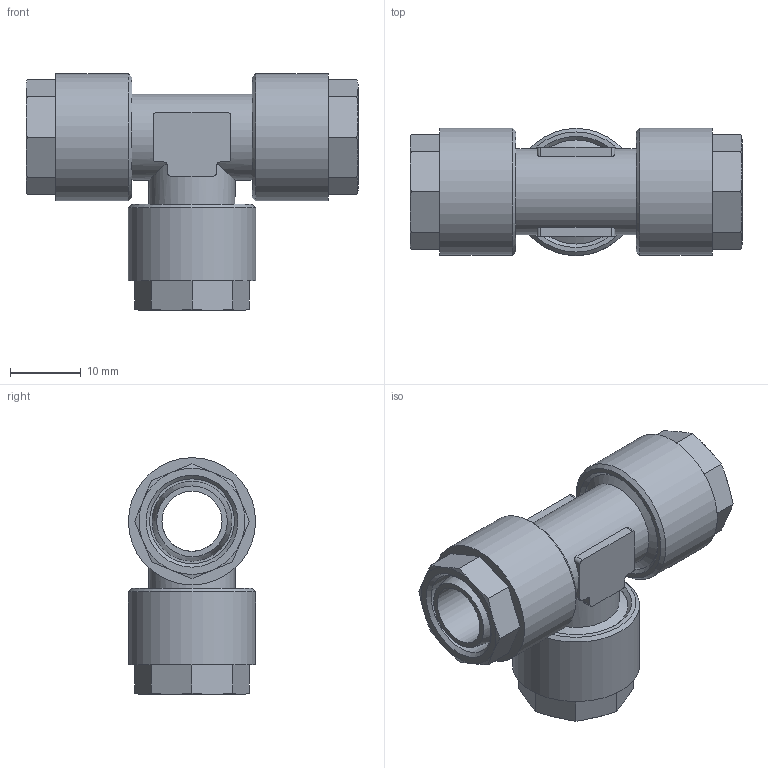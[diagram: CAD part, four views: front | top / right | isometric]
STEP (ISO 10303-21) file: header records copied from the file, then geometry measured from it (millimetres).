
FILE_DESCRIPTION(/* description */ (''),/* implementation_level */ '2;1');
FILE_NAME(/* name */ '12309_309_1210_14.08.17',/* time_stamp */ '2017-08-14T15:52:34+02:00',/* author */ (''),/* organization */ (''),/* preprocessor_version */ 'ST-DEVELOPER v16.5',/* originating_system */ 'HiCAD 2016 2102.2 Build 618',/* authorisation */ '');
FILE_SCHEMA (('AUTOMOTIVE_DESIGN { 1 0 10303 214 1 1 1 1 }'));
Length unit declared in the file: millimetre
Products named in the file (5): Root; 17008; R12309
Assembly tree (4 placements, depth 2):
  Root
    17008
    17008
    17008
    R12309
Bounding box: 47 x 18 x 33.5 mm (x, y, z)
Volume: 8657.8 mm3; surface area: 9963.7 mm2
Topology: 4 solids, 4 shells, 143 faces, 346 edges, 219 vertices
Faces by surface type: plane 60, cone 45, cylinder 35, torus 3
Full cylindrical faces by diameter (mm): 8.5 x2, 10.5 x3, 12 x3, 12.2 x2, 14.73 x3, 16 x3, 18 x3
Entity records: 9410 total; most frequent: CARTESIAN_POINT 3376, DIRECTION 718, PRESENTATION_STYLE_ASSIGNMENT 566, COLOUR_RGB 563, DRAUGHTING_PRE_DEFINED_CURVE_FONT 562, CURVE_STYLE 562, OVER_RIDING_STYLED_ITEM 562, ORIENTED_EDGE 562
